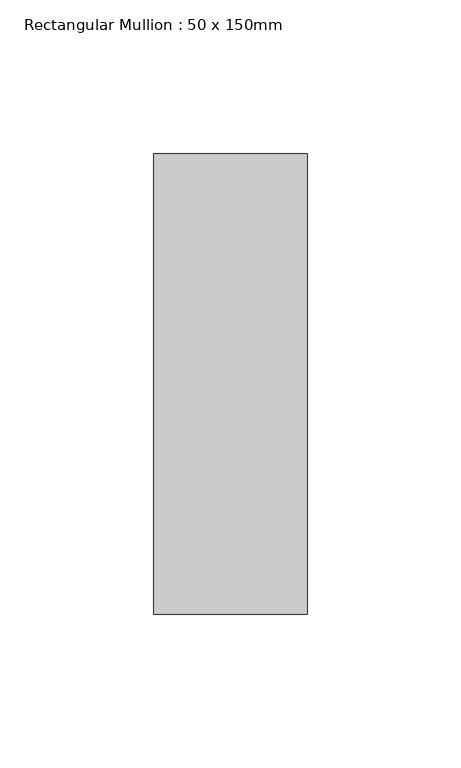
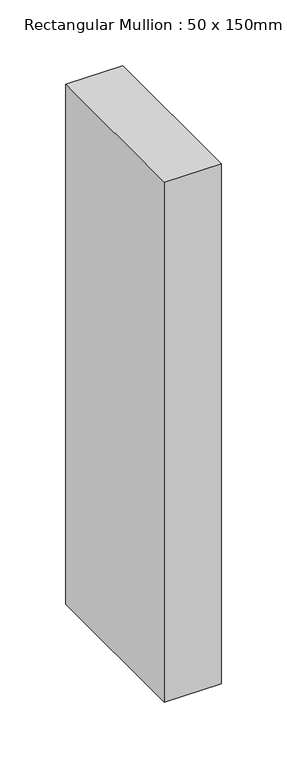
"""IFC4 building model written with IfcOpenShell, lengths in millimetres: member geometry, Rectangular Mullion : 50 x 150mm."""

from ifc_helpers import new_model, si_unit, frame, origin, place, context, project, spatial, polyline, outline, extrude, source, transform, mapped, element, save


def rectangular_mullion_50_x_150mm_d1e66009(model_context):
    return source(origin(), model_context, "Body", "SweptSolid", [
        extrude(outline(polyline([(0.0, 75.0), (0.0, -75.0), (-50.0, -75.0), (-50.0, 75.0), (0.0, 75.0)])), frame((0.0, 0.0, -483.3333334), z_axis=(0.0, 0.0, 1.0), x_axis=(1.0, 0.0, 0.0)), (0.0, 0.0, 1.0), 483.3333334),
    ])


if __name__ == "__main__":
    model = new_model("IFC4")
    model_context = context("Model", 3, world=origin())
    ifc_project = project(units=[si_unit("LENGTHUNIT", "METRE", prefix="MILLI")], contexts=[model_context])
    site = spatial("IfcSite", under=ifc_project)
    building = spatial("IfcBuilding", under=site)
    placement = place(None, origin())
    rectangular_mullion_50_x_150mm_shape = rectangular_mullion_50_x_150mm_d1e66009(model_context)
    element("IfcMember", 1, ObjectType="Rectangular Mullion : 50 x 150mm", at=placement, inside=building, context=model_context, shape_type="MappedRepresentation", body=[
        mapped(rectangular_mullion_50_x_150mm_shape, transform((0.0, 0.0, 0.0), x_axis=(1.0, 0.0, 0.0), y_axis=(0.0, 1.0, 0.0), z_axis=(0.0, 0.0, 1.0))),
    ])
    save(model, "model.ifc")
